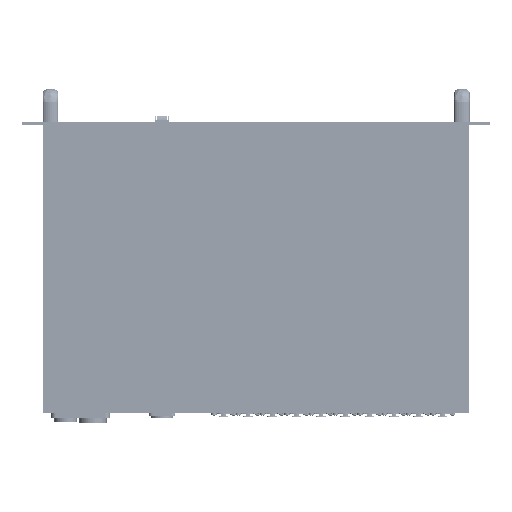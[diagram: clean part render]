
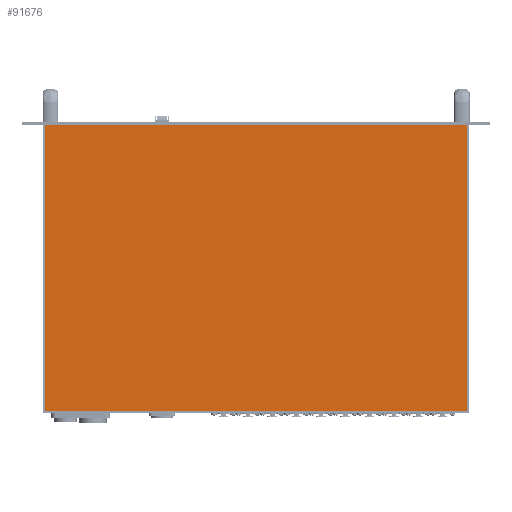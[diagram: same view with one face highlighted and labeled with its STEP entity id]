
A CAD part, top view. The second image highlights one B-rep face of the part: STEP entity #91676.
In plain terms, the highlighted planar face has unit normal (0, 0, 1).
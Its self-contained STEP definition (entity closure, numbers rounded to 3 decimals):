
#2641 = DIRECTION ( 'NONE',  ( -1., 0., 0. ) ) ;
#6628 = CARTESIAN_POINT ( 'NONE',  ( -265.831, 122.03, 34.4 ) ) ;
#7167 = VERTEX_POINT ( 'NONE', #9380 ) ;
#8359 = EDGE_CURVE ( 'NONE', #75091, #90750, #53335, .T. ) ;
#9380 = CARTESIAN_POINT ( 'NONE',  ( 213.3, -172.97, 34.4 ) ) ;
#11244 = ORIENTED_EDGE ( 'NONE', *, *, #8359, .T. ) ;
#12939 = CARTESIAN_POINT ( 'NONE',  ( 213.3, -203.101, 34.4 ) ) ;
#20196 = AXIS2_PLACEMENT_3D ( 'NONE', #48906, #60105, #121970 ) ;
#21398 = DIRECTION ( 'NONE',  ( 0., -1., 0. ) ) ;
#28038 = ORIENTED_EDGE ( 'NONE', *, *, #137074, .T. ) ;
#30819 = EDGE_CURVE ( 'NONE', #7167, #75091, #56665, .T. ) ;
#31614 = PLANE ( 'NONE',  #20196 ) ;
#44251 = VECTOR ( 'NONE', #2641, 1000. ) ;
#48906 = CARTESIAN_POINT ( 'NONE',  ( -265.831, -203.101, 34.4 ) ) ;
#53335 = LINE ( 'NONE', #6628, #44251 ) ;
#56665 = LINE ( 'NONE', #12939, #135478 ) ;
#60105 = DIRECTION ( 'NONE',  ( 0., 0., 1. ) ) ;
#66065 = DIRECTION ( 'NONE',  ( 1., 0., 0. ) ) ;
#75091 = VERTEX_POINT ( 'NONE', #137607 ) ;
#76357 = FACE_OUTER_BOUND ( 'NONE', #176651, .T. ) ;
#77088 = ORIENTED_EDGE ( 'NONE', *, *, #30819, .T. ) ;
#82304 = LINE ( 'NONE', #94443, #189355 ) ;
#90750 = VERTEX_POINT ( 'NONE', #156778 ) ;
#91676 = ADVANCED_FACE ( 'NONE', ( #76357 ), #31614, .T. ) ;
#94443 = CARTESIAN_POINT ( 'NONE',  ( -265.831, -172.97, 34.4 ) ) ;
#118102 = VECTOR ( 'NONE', #21398, 1000. ) ;
#118208 = EDGE_CURVE ( 'NONE', #90750, #131110, #128019, .T. ) ;
#121526 = DIRECTION ( 'NONE',  ( 0., 1., 0. ) ) ;
#121970 = DIRECTION ( 'NONE',  ( 1., 0., 0. ) ) ;
#127001 = CARTESIAN_POINT ( 'NONE',  ( -221.7, -203.101, 34.4 ) ) ;
#128019 = LINE ( 'NONE', #127001, #118102 ) ;
#131110 = VERTEX_POINT ( 'NONE', #179557 ) ;
#135478 = VECTOR ( 'NONE', #121526, 1000. ) ;
#137074 = EDGE_CURVE ( 'NONE', #131110, #7167, #82304, .T. ) ;
#137607 = CARTESIAN_POINT ( 'NONE',  ( 213.3, 122.03, 34.4 ) ) ;
#156778 = CARTESIAN_POINT ( 'NONE',  ( -221.7, 122.03, 34.4 ) ) ;
#163759 = ORIENTED_EDGE ( 'NONE', *, *, #118208, .T. ) ;
#176651 = EDGE_LOOP ( 'NONE', ( #11244, #163759, #28038, #77088 ) ) ;
#179557 = CARTESIAN_POINT ( 'NONE',  ( -221.7, -172.97, 34.4 ) ) ;
#189355 = VECTOR ( 'NONE', #66065, 1000. ) ;
